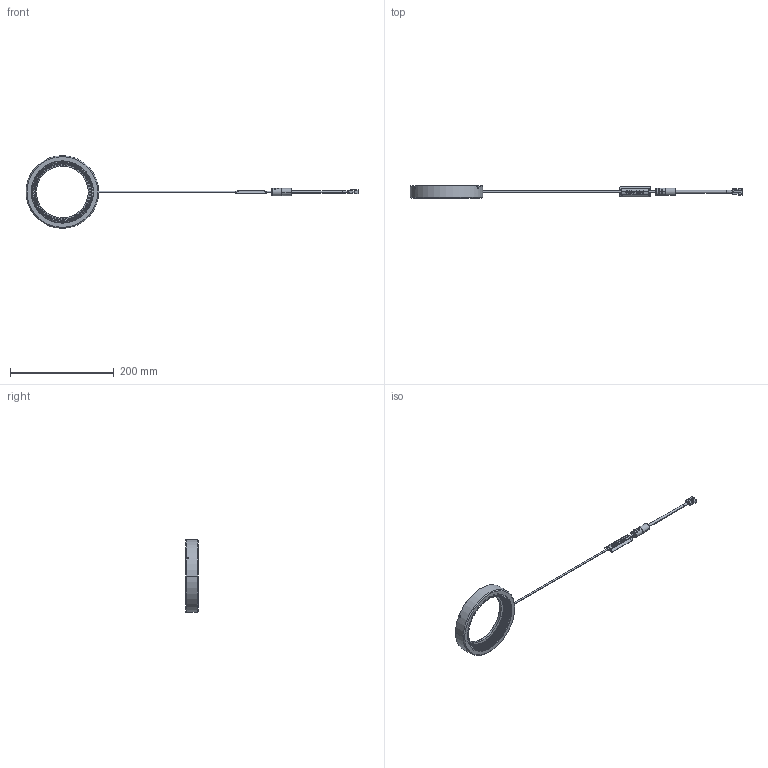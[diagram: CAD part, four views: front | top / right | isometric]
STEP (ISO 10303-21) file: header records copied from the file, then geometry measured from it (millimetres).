
FILE_DESCRIPTION (( 'STEP AP203' ), '1' );
FILE_NAME ('MLRL-C#100_A09309A0100101A-003.STEP', '2013-12-18T02:49:39', ( 'SCHOTT' ), ( 'SCHOTT' ), 'SwSTEP 2.0', 'SolidWorks 2011', '' );
FILE_SCHEMA (( 'CONFIG_CONTROL_DESIGN' ));
Length unit declared in the file: millimetre
Products named in the file (1): MLRL-C#100_A09309A0100101A-003
Bounding box: 640 x 24 x 140 mm (x, y, z)
Volume: 143500.6 mm3; surface area: 61926.4 mm2
Topology: 2 solids, 2 shells, 4298 faces, 11680 edges, 7662 vertices
Faces by surface type: plane 2731, cylinder 1066, sphere 472, cone 18, bspline 8, torus 3
Entity records: 141068 total; most frequent: CARTESIAN_POINT 35869, ORIENTED_EDGE 22416, DIRECTION 20642, EDGE_CURVE 11208, VERTEX_POINT 7662, AXIS2_PLACEMENT_3D 7368, VECTOR 5906, LINE 5906
